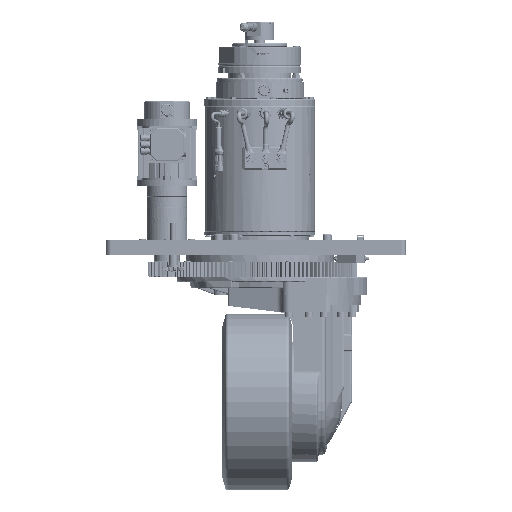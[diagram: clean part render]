
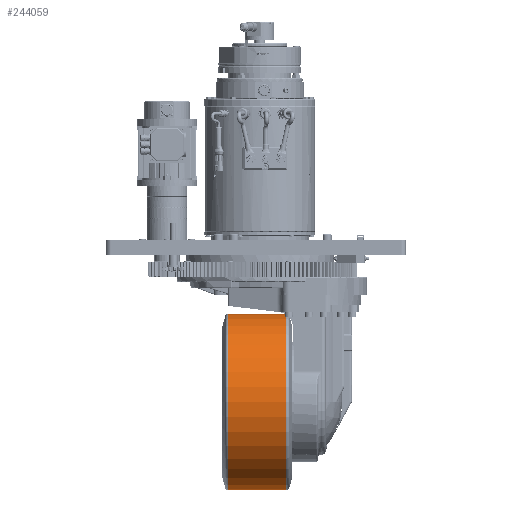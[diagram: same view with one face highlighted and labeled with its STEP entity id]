
A CAD part, front view. The second image highlights one B-rep face of the part: STEP entity #244059.
In plain terms, the highlighted cylindrical face has radius 175 mm (diameter 350 mm), a full revolution.
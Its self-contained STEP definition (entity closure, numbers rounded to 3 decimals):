
#17005=FACE_OUTER_BOUND('',#30620,.T.);
#30620=EDGE_LOOP('',(#157319,#157320,#157321,#157322));
#45907=CIRCLE('',#257849,175.);
#45908=CIRCLE('',#257851,175.);
#57472=LINE('',#352841,#77296);
#77296=VECTOR('',#283058,175.);
#97308=VERTEX_POINT('',#352836);
#97309=VERTEX_POINT('',#352840);
#120969=EDGE_CURVE('',#97308,#97308,#45907,.T.);
#120970=EDGE_CURVE('',#97308,#97309,#57472,.T.);
#120971=EDGE_CURVE('',#97309,#97309,#45908,.T.);
#157319=ORIENTED_EDGE('',*,*,#120969,.F.);
#157320=ORIENTED_EDGE('',*,*,#120970,.T.);
#157321=ORIENTED_EDGE('',*,*,#120971,.T.);
#157322=ORIENTED_EDGE('',*,*,#120970,.F.);
#227369=CYLINDRICAL_SURFACE('',#257850,175.);
#244059=ADVANCED_FACE('',(#17005),#227369,.T.);
#257849=AXIS2_PLACEMENT_3D('',#352838,#283054,#283055);
#257850=AXIS2_PLACEMENT_3D('',#352839,#283056,#283057);
#257851=AXIS2_PLACEMENT_3D('',#352842,#283059,#283060);
#283054=DIRECTION('center_axis',(1.,0.,0.));
#283055=DIRECTION('ref_axis',(0.,0.,-1.));
#283056=DIRECTION('center_axis',(1.,0.,0.));
#283057=DIRECTION('ref_axis',(0.,0.,-1.));
#283058=DIRECTION('',(-1.,0.,0.));
#283059=DIRECTION('center_axis',(1.,0.,0.));
#283060=DIRECTION('ref_axis',(0.,0.,-1.));
#352836=CARTESIAN_POINT('',(53.027,0.,-78.));
#352838=CARTESIAN_POINT('Origin',(53.027,0.,
-253.));
#352839=CARTESIAN_POINT('Origin',(-5.,0.,
-253.));
#352840=CARTESIAN_POINT('',(-63.027,0.,-78.));
#352841=CARTESIAN_POINT('',(-5.,0.,-78.));
#352842=CARTESIAN_POINT('Origin',(-63.027,0.,
-253.));
